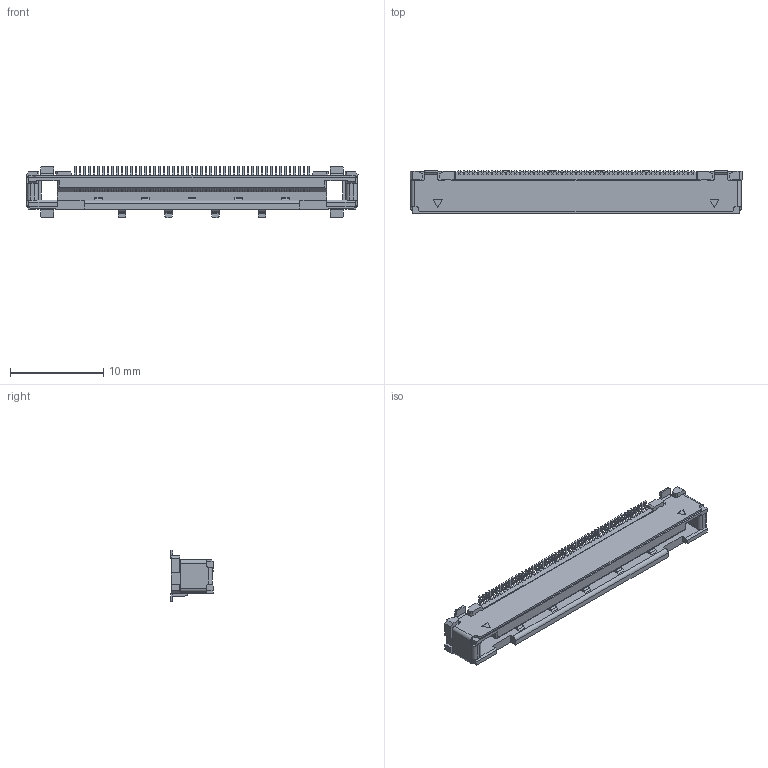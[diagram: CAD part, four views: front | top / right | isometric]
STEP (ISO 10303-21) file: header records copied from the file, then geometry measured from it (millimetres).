
FILE_DESCRIPTION(('CoCreate Modeling STEP Export'),'2;1');
FILE_NAME('P3A458_TMC01-51S-□.stp','2017-08-03T13:02:10',(''),(''),'CoCreate Modeling STEP processor for AP214 (Solid Model)','CoCreate Modeling 17.0B 09-Oct-2010 (C) Parametric Technology GmbH','');
FILE_SCHEMA(('AUTOMOTIVE_DESIGN { 1 0 10303 214 1 1 1 1 }'));
Products named in the file (2): P3A458_TMC01-51S-□
Assembly tree (1 placements, depth 2):
  P3A458_TMC01-51S-□
    P3A458_TMC01-51S-□
Bounding box: 35.54 x 4.53 x 5.55 mm (x, y, z)
Volume: 400 mm3; surface area: 969 mm2
Topology: 1 solids, 1 shells, 1976 faces, 5751 edges, 3833 vertices
Faces by surface type: plane 1593, cylinder 383
Entity records: 62586 total; most frequent: ORIENTED_EDGE 11502, CARTESIAN_POINT 11086, DIRECTION 9817, EDGE_CURVE 5751, VECTOR 4689, LINE 4689, VERTEX_POINT 3833, AXIS2_PLACEMENT_3D 2564
